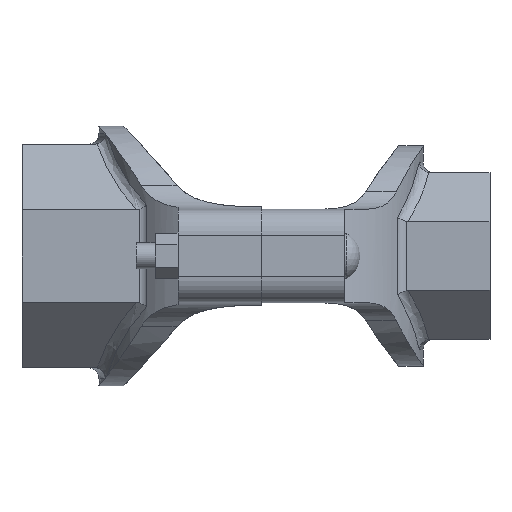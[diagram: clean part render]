
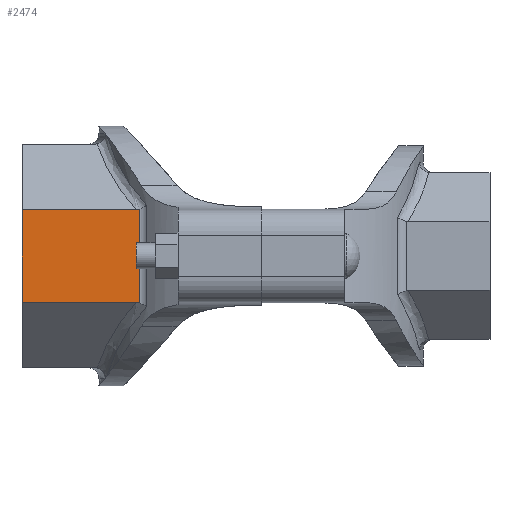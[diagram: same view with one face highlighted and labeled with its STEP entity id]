
A CAD part, left-side view. The second image highlights one B-rep face of the part: STEP entity #2474.
In plain terms, the highlighted planar face has unit normal (-1, 0, 0) as drawn and (1, 0, 0) by its records, which use the part's own axes.
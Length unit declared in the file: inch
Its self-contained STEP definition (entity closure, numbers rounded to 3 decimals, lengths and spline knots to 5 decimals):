
#56=B_SPLINE_CURVE_WITH_KNOTS('',3,(#3654,#3655,#3656,#3657),
 .UNSPECIFIED.,.F.,.F.,(4,4),(0.,0.18601),.UNSPECIFIED.);
#60=B_SPLINE_CURVE_WITH_KNOTS('',3,(#3711,#3712,#3713,#3714,#3715,#3716,
#3717,#3718,#3719,#3720),.UNSPECIFIED.,.F.,.F.,(4,3,3,4),(0.54653,
0.62161,0.72546,0.73263),.UNSPECIFIED.);
#258=FACE_OUTER_BOUND('',#399,.T.);
#399=EDGE_LOOP('',(#1821,#1822,#1823,#1824,#1825,#1826));
#501=LINE('',#3749,#683);
#513=LINE('',#4004,#695);
#570=LINE('',#4382,#752);
#571=LINE('',#4384,#753);
#683=VECTOR('',#2924,0.3937);
#695=VECTOR('',#2966,0.3937);
#752=VECTOR('',#3149,0.3937);
#753=VECTOR('',#3152,0.3937);
#959=VERTEX_POINT('',#3651);
#960=VERTEX_POINT('',#3653);
#965=VERTEX_POINT('',#3701);
#966=VERTEX_POINT('',#3710);
#990=VERTEX_POINT('',#4003);
#1054=VERTEX_POINT('',#4380);
#1205=EDGE_CURVE('',#959,#960,#56,.T.);
#1211=EDGE_CURVE('',#965,#966,#60,.T.);
#1214=EDGE_CURVE('',#965,#960,#501,.T.);
#1249=EDGE_CURVE('',#966,#990,#513,.T.);
#1343=EDGE_CURVE('',#959,#1054,#570,.T.);
#1344=EDGE_CURVE('',#990,#1054,#571,.T.);
#1821=ORIENTED_EDGE('',*,*,#1214,.T.);
#1822=ORIENTED_EDGE('',*,*,#1205,.F.);
#1823=ORIENTED_EDGE('',*,*,#1343,.T.);
#1824=ORIENTED_EDGE('',*,*,#1344,.F.);
#1825=ORIENTED_EDGE('',*,*,#1249,.F.);
#1826=ORIENTED_EDGE('',*,*,#1211,.F.);
#2244=PLANE('',#2717);
#2474=ADVANCED_FACE('',(#258),#2244,.T.);
#2717=AXIS2_PLACEMENT_3D('',#4383,#3150,#3151);
#2924=DIRECTION('',(0.,0.,-1.));
#2966=DIRECTION('',(0.,1.,0.));
#3149=DIRECTION('',(0.,1.,0.));
#3150=DIRECTION('center_axis',(1.,0.,0.));
#3151=DIRECTION('ref_axis',(0.,0.,-1.));
#3152=DIRECTION('',(0.,0.,-1.));
#3651=CARTESIAN_POINT('',(2.69,3.00068,-1.11423));
#3653=CARTESIAN_POINT('',(2.69,2.92898,-1.12601));
#3654=CARTESIAN_POINT('Ctrl Pts',(2.69,3.00068,-1.11423));
#3655=CARTESIAN_POINT('Ctrl Pts',(2.69,2.97627,-1.11423));
#3656=CARTESIAN_POINT('Ctrl Pts',(2.69,2.95182,-1.11771));
#3657=CARTESIAN_POINT('Ctrl Pts',(2.69,2.92898,-1.12601));
#3701=CARTESIAN_POINT('',(2.69,2.92898,1.12601));
#3710=CARTESIAN_POINT('',(2.69,3.00068,1.11423));
#3711=CARTESIAN_POINT('Ctrl Pts',(2.69001,2.92896,1.12603));
#3712=CARTESIAN_POINT('Ctrl Pts',(2.69001,2.93818,1.12268));
#3713=CARTESIAN_POINT('Ctrl Pts',(2.69001,2.94767,1.12011));
#3714=CARTESIAN_POINT('Ctrl Pts',(2.69001,2.95732,1.11824));
#3715=CARTESIAN_POINT('Ctrl Pts',(2.69001,2.97066,1.11565));
#3716=CARTESIAN_POINT('Ctrl Pts',(2.69,2.98427,1.1144));
#3717=CARTESIAN_POINT('Ctrl Pts',(2.69,2.99787,1.11425));
#3718=CARTESIAN_POINT('Ctrl Pts',(2.69,2.9988,1.11424));
#3719=CARTESIAN_POINT('Ctrl Pts',(2.69,2.99974,1.11424));
#3720=CARTESIAN_POINT('Ctrl Pts',(2.69,3.00068,1.11424));
#3749=CARTESIAN_POINT('',(2.69,2.92898,0.));
#4003=CARTESIAN_POINT('',(2.69,5.75,1.11423));
#4004=CARTESIAN_POINT('',(2.69,0.,1.11423));
#4380=CARTESIAN_POINT('',(2.69,5.75,-1.11423));
#4382=CARTESIAN_POINT('',(2.69,0.,-1.11423));
#4383=CARTESIAN_POINT('Origin',(2.69,0.,1.11423));
#4384=CARTESIAN_POINT('',(2.69,5.75,-1.11423));
